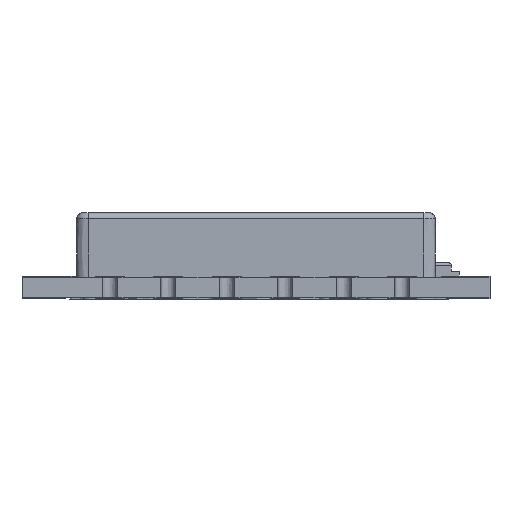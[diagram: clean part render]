
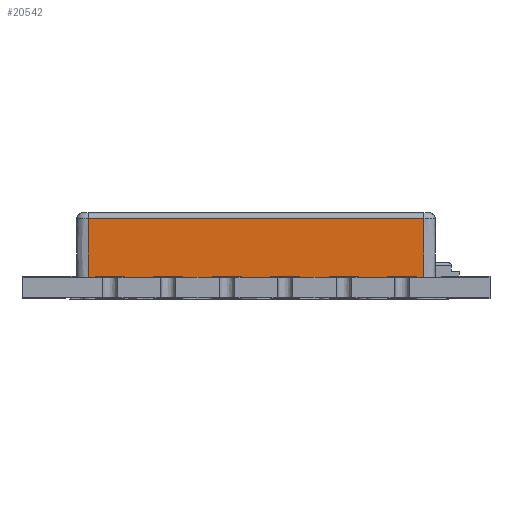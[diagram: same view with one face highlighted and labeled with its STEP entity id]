
A CAD part, front view. The second image highlights one B-rep face of the part: STEP entity #20542.
In plain terms, the highlighted planar face has unit normal (0, -1, 0).
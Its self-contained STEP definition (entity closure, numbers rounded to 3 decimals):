
#20542=ADVANCED_FACE('',(#47559),#47561,.T.);
#47559=FACE_BOUND('',#47560,.T.);
#47560=EDGE_LOOP('',(#74240,#74241,#74242,#74243));
#47561=PLANE('',#47562);
#47562=AXIS2_PLACEMENT_3D('',#47563,#47564,#47565);
#47563=CARTESIAN_POINT('',(-5.739,-10.832,0.7));
#47564=DIRECTION('',(0.,-1.,0.));
#47565=DIRECTION('',(1.,0.,0.));
#74240=ORIENTED_EDGE('',*,*,#90771,.F.);
#74241=ORIENTED_EDGE('',*,*,#90772,.F.);
#74242=ORIENTED_EDGE('',*,*,#90375,.T.);
#74243=ORIENTED_EDGE('',*,*,#90770,.T.);
#90375=EDGE_CURVE('',#104350,#104348,#104351,.T.);
#90770=EDGE_CURVE('',#104348,#104945,#104947,.T.);
#90771=EDGE_CURVE('',#104948,#104945,#104949,.T.);
#90772=EDGE_CURVE('',#104350,#104948,#104950,.T.);
#104348=VERTEX_POINT('',#135451);
#104350=VERTEX_POINT('',#135456);
#104351=LINE('',#135457,#135458);
#104945=VERTEX_POINT('',#137184);
#104947=LINE('',#137189,#137190);
#104948=VERTEX_POINT('',#137192);
#104949=LINE('',#137193,#137194);
#104950=LINE('',#137196,#137197);
#135451=CARTESIAN_POINT('',(5.739,-10.832,0.7));
#135456=CARTESIAN_POINT('',(-5.739,-10.832,0.7));
#135457=CARTESIAN_POINT('',(-5.739,-10.832,0.7));
#135458=VECTOR('',#135459,1.);
#135459=DIRECTION('',(1.,0.,0.));
#137184=CARTESIAN_POINT('',(5.739,-10.832,2.7));
#137189=CARTESIAN_POINT('',(5.739,-10.832,0.7));
#137190=VECTOR('',#137191,1.);
#137191=DIRECTION('',(0.,0.,1.));
#137192=CARTESIAN_POINT('',(-5.739,-10.832,2.7));
#137193=CARTESIAN_POINT('',(-5.739,-10.832,2.7));
#137194=VECTOR('',#137195,1.);
#137195=DIRECTION('',(1.,0.,0.));
#137196=CARTESIAN_POINT('',(-5.739,-10.832,0.7));
#137197=VECTOR('',#137198,1.);
#137198=DIRECTION('',(0.,0.,1.));
